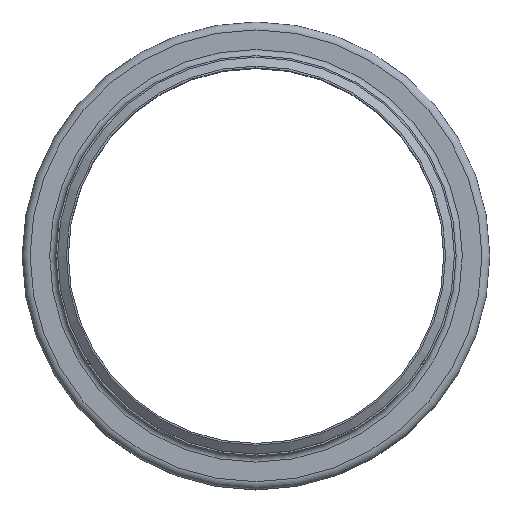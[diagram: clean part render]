
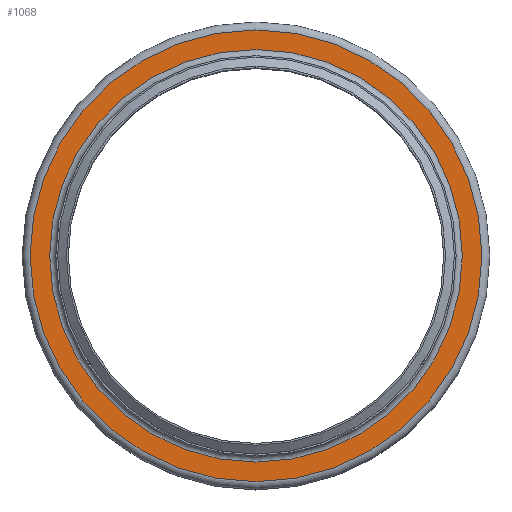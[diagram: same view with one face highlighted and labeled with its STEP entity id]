
A CAD part, top view. The second image highlights one B-rep face of the part: STEP entity #1068.
In plain terms, the highlighted planar face has unit normal (0, 0, 1).
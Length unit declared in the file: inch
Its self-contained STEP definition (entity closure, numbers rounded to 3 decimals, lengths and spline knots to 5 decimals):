
#102=FACE_BOUND('',#282,.T.);
#171=FACE_OUTER_BOUND('',#281,.T.);
#281=EDGE_LOOP('',(#824));
#282=EDGE_LOOP('',(#825));
#402=CIRCLE('',#1264,7.28);
#403=CIRCLE('',#1266,7.97);
#491=VERTEX_POINT('',#1935);
#492=VERTEX_POINT('',#1939);
#606=EDGE_CURVE('',#491,#491,#402,.T.);
#607=EDGE_CURVE('',#492,#492,#403,.T.);
#824=ORIENTED_EDGE('',*,*,#607,.F.);
#825=ORIENTED_EDGE('',*,*,#606,.T.);
#918=PLANE('',#1265);
#1068=ADVANCED_FACE('',(#171,#102),#918,.T.);
#1264=AXIS2_PLACEMENT_3D('',#1937,#1621,#1622);
#1265=AXIS2_PLACEMENT_3D('',#1938,#1623,#1624);
#1266=AXIS2_PLACEMENT_3D('',#1940,#1625,#1626);
#1621=DIRECTION('center_axis',(0.,0.,
-1.));
#1622=DIRECTION('ref_axis',(1.,0.,0.));
#1623=DIRECTION('center_axis',(0.,0.,
1.));
#1624=DIRECTION('ref_axis',(1.,0.,0.));
#1625=DIRECTION('center_axis',(0.,0.,
-1.));
#1626=DIRECTION('ref_axis',(1.,0.,0.));
#1935=CARTESIAN_POINT('',(7.28,0.,-1.72));
#1937=CARTESIAN_POINT('Origin',(0.,0.,
-1.72));
#1938=CARTESIAN_POINT('Origin',(0.,7.97,-1.72));
#1939=CARTESIAN_POINT('',(7.97,0.,-1.72));
#1940=CARTESIAN_POINT('Origin',(0.,0.,
-1.72));
